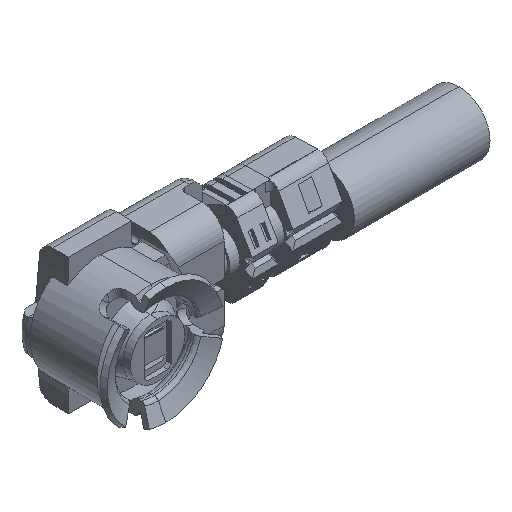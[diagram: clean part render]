
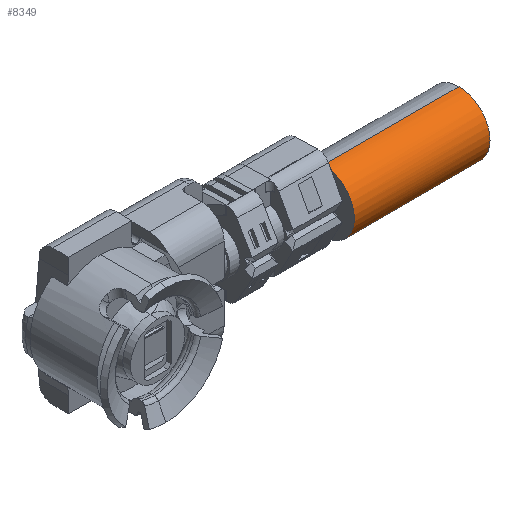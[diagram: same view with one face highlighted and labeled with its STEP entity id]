
A CAD part, isometric view. The second image highlights one B-rep face of the part: STEP entity #8349.
In plain terms, the highlighted cylindrical face has radius 0.685 mm (diameter 1.37 mm), a partial arc.
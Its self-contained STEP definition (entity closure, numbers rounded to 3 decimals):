
#114 = CARTESIAN_POINT ( 'NONE',  ( 4.7, -0.762, -0.662 ) ) ;
#185 = AXIS2_PLACEMENT_3D ( 'NONE', #358, #307, #268 ) ;
#268 = DIRECTION ( 'NONE',  ( 0., 0., -1. ) ) ;
#307 = DIRECTION ( 'NONE',  ( 1., 0., 0. ) ) ;
#313 = CARTESIAN_POINT ( 'NONE',  ( 7.7, -0.585, 0. ) ) ;
#358 = CARTESIAN_POINT ( 'NONE',  ( 4.7, -0.585, 0. ) ) ;
#360 = DIRECTION ( 'NONE',  ( 0., 0., 1. ) ) ;
#695 = DIRECTION ( 'NONE',  ( 1., 0., 0. ) ) ;
#696 = CIRCLE ( 'NONE', #5088, 0.685 ) ;
#1343 = CYLINDRICAL_SURFACE ( 'NONE', #10501, 0.685 ) ;
#1389 = DIRECTION ( 'NONE',  ( -1., 0., 0. ) ) ;
#1500 = DIRECTION ( 'NONE',  ( 1., 0., 0. ) ) ;
#1793 = CIRCLE ( 'NONE', #7517, 0.685 ) ;
#1859 = DIRECTION ( 'NONE',  ( 1., 0., 0. ) ) ;
#2156 = VERTEX_POINT ( 'NONE', #114 ) ;
#2780 = CARTESIAN_POINT ( 'NONE',  ( 4.7, -0.585, 0.685 ) ) ;
#3333 = VERTEX_POINT ( 'NONE', #6783 ) ;
#3433 = ORIENTED_EDGE ( 'NONE', *, *, #3534, .T. ) ;
#3534 = EDGE_CURVE ( 'NONE', #12267, #2156, #5590, .T. ) ;
#3730 = VECTOR ( 'NONE', #10907, 1000. ) ;
#4215 = EDGE_CURVE ( 'NONE', #3333, #5183, #696, .T. ) ;
#4408 = CARTESIAN_POINT ( 'NONE',  ( 4.7, -0.762, 0.662 ) ) ;
#4531 = EDGE_CURVE ( 'NONE', #3333, #12893, #5569, .T. ) ;
#5088 = AXIS2_PLACEMENT_3D ( 'NONE', #7506, #1500, #8515 ) ;
#5183 = VERTEX_POINT ( 'NONE', #11273 ) ;
#5569 = LINE ( 'NONE', #7085, #8554 ) ;
#5590 = CIRCLE ( 'NONE', #185, 0.685 ) ;
#5994 = ORIENTED_EDGE ( 'NONE', *, *, #8552, .T. ) ;
#6302 = EDGE_CURVE ( 'NONE', #5183, #8328, #6424, .T. ) ;
#6424 = LINE ( 'NONE', #7858, #3730 ) ;
#6576 = EDGE_LOOP ( 'NONE', ( #7839, #7028, #9906, #5994, #3433, #12007 ) ) ;
#6674 = FACE_OUTER_BOUND ( 'NONE', #6576, .T. ) ;
#6726 = CARTESIAN_POINT ( 'NONE',  ( 4.7, -0.585, 0. ) ) ;
#6783 = CARTESIAN_POINT ( 'NONE',  ( 7.7, -0.585, 0.685 ) ) ;
#7028 = ORIENTED_EDGE ( 'NONE', *, *, #4215, .F. ) ;
#7085 = CARTESIAN_POINT ( 'NONE',  ( 7.7, -0.585, 0.685 ) ) ;
#7506 = CARTESIAN_POINT ( 'NONE',  ( 7.7, -0.585, 0. ) ) ;
#7517 = AXIS2_PLACEMENT_3D ( 'NONE', #6726, #695, #7731 ) ;
#7731 = DIRECTION ( 'NONE',  ( 0., 0., -1. ) ) ;
#7839 = ORIENTED_EDGE ( 'NONE', *, *, #6302, .F. ) ;
#7858 = CARTESIAN_POINT ( 'NONE',  ( 7.7, -0.585, -0.685 ) ) ;
#7881 = CARTESIAN_POINT ( 'NONE',  ( 4.7, -0.585, 0. ) ) ;
#8328 = VERTEX_POINT ( 'NONE', #12429 ) ;
#8349 = ADVANCED_FACE ( 'NONE', ( #6674 ), #1343, .T. ) ;
#8515 = DIRECTION ( 'NONE',  ( 0., 0., -1. ) ) ;
#8552 = EDGE_CURVE ( 'NONE', #12893, #12267, #1793, .T. ) ;
#8554 = VECTOR ( 'NONE', #12048, 1000. ) ;
#8888 = DIRECTION ( 'NONE',  ( 0., 0., -1. ) ) ;
#9906 = ORIENTED_EDGE ( 'NONE', *, *, #4531, .T. ) ;
#10501 = AXIS2_PLACEMENT_3D ( 'NONE', #313, #1389, #360 ) ;
#10609 = CIRCLE ( 'NONE', #12098, 0.685 ) ;
#10663 = EDGE_CURVE ( 'NONE', #2156, #8328, #10609, .T. ) ;
#10907 = DIRECTION ( 'NONE',  ( -1., 0., 0. ) ) ;
#11273 = CARTESIAN_POINT ( 'NONE',  ( 7.7, -0.585, -0.685 ) ) ;
#12007 = ORIENTED_EDGE ( 'NONE', *, *, #10663, .T. ) ;
#12048 = DIRECTION ( 'NONE',  ( -1., 0., 0. ) ) ;
#12098 = AXIS2_PLACEMENT_3D ( 'NONE', #7881, #1859, #8888 ) ;
#12267 = VERTEX_POINT ( 'NONE', #4408 ) ;
#12429 = CARTESIAN_POINT ( 'NONE',  ( 4.7, -0.585, -0.685 ) ) ;
#12893 = VERTEX_POINT ( 'NONE', #2780 ) ;
